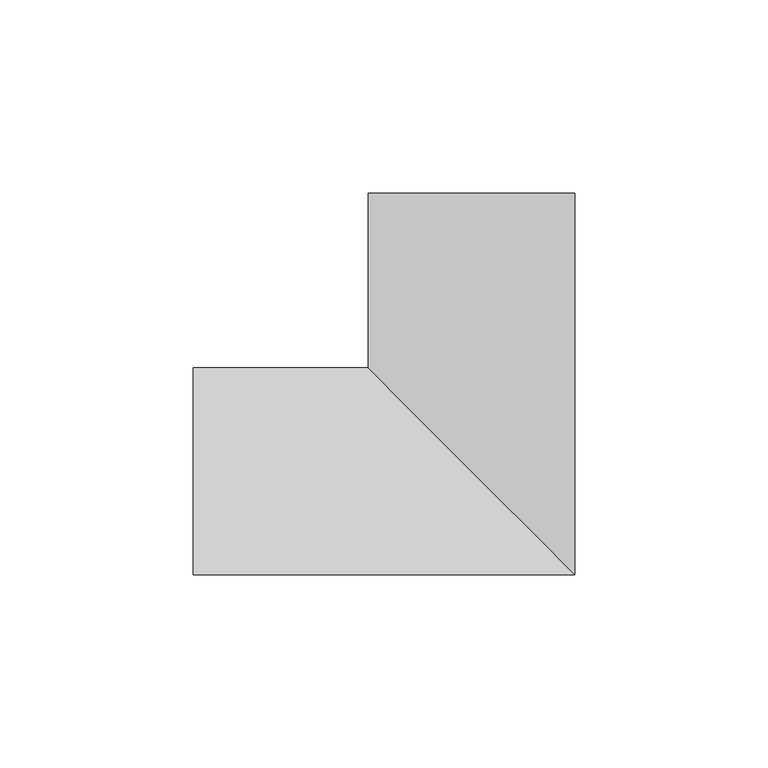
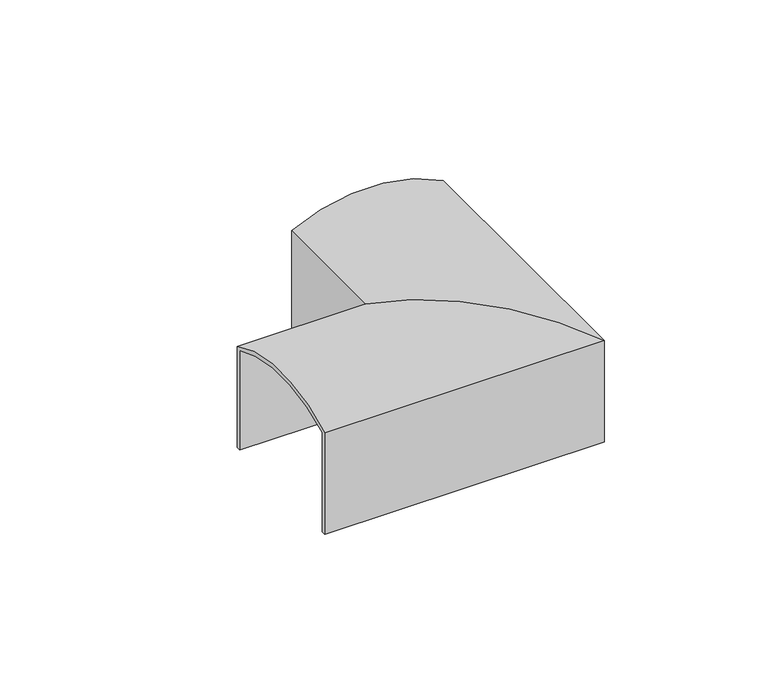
"""IFC4 building model written with IfcOpenShell, lengths in millimetres: proxy geometry, Innore top rail 51x43 corner element : Innore top rail 51x43 element."""

import ifcopenshell
import ifcopenshell.guid

model = None  # the IFC model being written
_history = None  # IfcOwnerHistory: only IFC2X3 demands one
_inside = {}  # id of a spatial element -> (the spatial element, [elements in it])
_under = {}  # id of a project, library or spatial element -> (it, [spatial elements below it])
_declared = {}  # id of a project -> (the project, [libraries it declares])
_typed = {}  # id of a type object -> (the type object, [elements of that type])
_made_of = {}  # id of a material, layer set ... -> (it, [elements and type objects made of it])


def new_model(schema):
    """Start an empty IFC model of exactly this schema.

    Asked for "IFC4X3", IfcOpenShell would pick the latest addendum, in which some entities
    have other attributes; the version numbers below select the first issue.
    IFC2X3 requires an IfcOwnerHistory on every rooted entity: one is made here for all.
    """
    global model, _history
    if schema == "IFC4X3":
        model = ifcopenshell.file(schema_version=(4, 3, 0, 0))
    else:
        model = ifcopenshell.file(schema=schema)
    _inside.clear()
    _under.clear()
    _declared.clear()
    _typed.clear()
    _made_of.clear()
    _history = None
    if model.schema == "IFC2X3":
        org = make("IfcOrganization", Name="unknown")
        user = make(
            "IfcPersonAndOrganization",
            ThePerson=make("IfcPerson", FamilyName="unknown"),
            TheOrganization=org,
        )
        app = make(
            "IfcApplication",
            ApplicationDeveloper=org,
            Version="unknown",
            ApplicationFullName="unknown",
            ApplicationIdentifier="unknown",
        )
        _history = make(
            "IfcOwnerHistory",
            OwningUser=user,
            OwningApplication=app,
            ChangeAction="ADDED",
            CreationDate=0,
        )
    return model


def make(cls, **values):
    """One entity of the class cls with the attributes given. An attribute that is None is left unset."""
    return model.create_entity(
        cls, **{name: value for name, value in values.items() if value is not None}
    )


def rooted(cls, **values):
    """An entity with a GlobalId (a new one), such as an element, a storey or a relation."""
    return make(cls, GlobalId=ifcopenshell.guid.new(), OwnerHistory=_history, **values)


def si_unit(unit_type, name, prefix=None):
    """IfcSIUnit, for example si_unit("LENGTHUNIT", "METRE", prefix="MILLI")."""
    return make("IfcSIUnit", UnitType=unit_type, Prefix=prefix, Name=name)


def assignment(units):
    """IfcUnitAssignment: the units of a project."""
    return None if units is None else make("IfcUnitAssignment", Units=units)


def point(xyz):
    """IfcCartesianPoint."""
    return None if xyz is None else make("IfcCartesianPoint", Coordinates=xyz)


def direction(xyz):
    """IfcDirection."""
    return None if xyz is None else make("IfcDirection", DirectionRatios=xyz)


def frame(location, z_axis=None, x_axis=None):
    """IfcAxis2Placement3D, a coordinate frame: its origin and axes. An axis left out is left unset."""
    return make(
        "IfcAxis2Placement3D",
        Location=point(location),
        Axis=direction(z_axis),
        RefDirection=direction(x_axis),
    )


def origin():
    """The frame at (0, 0, 0) with its axes left unset."""
    return frame((0.0, 0.0, 0.0))


def place(relative_to, where):
    """IfcLocalPlacement: puts the frame where relative to a parent placement (None: the world)."""
    return make(
        "IfcLocalPlacement", PlacementRelTo=relative_to, RelativePlacement=where
    )


def context(
    kind, dimensions, precision=None, world=None, true_north=None, identifier=None
):
    """IfcGeometricRepresentationContext, for example the 3D "Model" context."""
    return make(
        "IfcGeometricRepresentationContext",
        ContextIdentifier=identifier,
        ContextType=kind,
        CoordinateSpaceDimension=dimensions,
        Precision=precision,
        WorldCoordinateSystem=world,
        TrueNorth=true_north,
    )


def project(units=None, contexts=None):
    """IfcProject with its units and contexts."""
    return rooted(
        "IfcProject",
        Name="project",
        RepresentationContexts=contexts,
        UnitsInContext=assignment(units),
    )


def spatial(cls, under=None, at=None, **own):
    """A site, building, storey or space (cls), placed at a placement, below another one or the project."""
    s = rooted(cls, ObjectPlacement=at, **own)
    if under is not None:
        _under.setdefault(under.id(), (under, []))[1].append(s)
    return s


def polyline(points):
    """IfcPolyline through the points."""
    return make("IfcPolyline", Points=[point(p) for p in points])


def circle_curve(where, radius):
    """IfcCircle in the frame where."""
    return make("IfcCircle", Position=where, Radius=radius)


def ellipse_curve(where, semi_axis1, semi_axis2):
    """IfcEllipse in the frame where."""
    return make(
        "IfcEllipse", Position=where, SemiAxis1=semi_axis1, SemiAxis2=semi_axis2
    )


def shape(context_of_items, identifier, shape_type, items):
    """IfcShapeRepresentation: the items that make up one representation, for example the "Body"."""
    return make(
        "IfcShapeRepresentation",
        ContextOfItems=context_of_items,
        RepresentationIdentifier=identifier,
        RepresentationType=shape_type,
        Items=items,
    )


def source(mapping_origin, context_of_items, identifier, shape_type, items):
    """IfcRepresentationMap: a shape defined once, which mapped items show again and again."""
    return make(
        "IfcRepresentationMap",
        MappingOrigin=mapping_origin,
        MappedRepresentation=shape(context_of_items, identifier, shape_type, items),
    )


def transform(
    local_origin,
    x_axis=None,
    y_axis=None,
    z_axis=None,
    scale=None,
    scale2=None,
    scale3=None,
    uniform=True,
):
    """IfcCartesianTransformationOperator3D, or its non-uniform kind. x_axis, y_axis, z_axis: its Axis1, 2, 3."""
    if uniform:
        return make(
            "IfcCartesianTransformationOperator3D",
            Axis1=direction(x_axis),
            Axis2=direction(y_axis),
            LocalOrigin=point(local_origin),
            Scale=scale,
            Axis3=direction(z_axis),
        )
    return make(
        "IfcCartesianTransformationOperator3DnonUniform",
        Axis1=direction(x_axis),
        Axis2=direction(y_axis),
        LocalOrigin=point(local_origin),
        Scale=scale,
        Axis3=direction(z_axis),
        Scale2=scale2,
        Scale3=scale3,
    )


def mapped(mapping_source, mapping_target):
    """IfcMappedItem: shows the shape of a source again, moved by a transform."""
    return make(
        "IfcMappedItem", MappingSource=mapping_source, MappingTarget=mapping_target
    )


def made_of(thing, what):
    """Note that an element or type object is made of a material, layer set ...; save() writes the relation."""
    if what is not None:
        _made_of.setdefault(what.id(), (what, []))[1].append(thing)
    return thing


def element(
    cls,
    number,
    at=None,
    inside=None,
    cuts=None,
    type_object=None,
    material=None,
    context=None,
    identifier="Body",
    shape_type=None,
    held_by="IfcProductDefinitionShape",
    body=None,
    shapes=None,
    **own,
):
    """One element of the class cls, such as IfcWall. Its Tag is "e" and its number.

    at: its placement. inside: the storey or other place that contains it. cuts: it is an
    opening in that element (IfcRelVoidsElement). A single representation is given by context,
    identifier, shape_type and body (its items); several are given by shapes. held_by: the class
    of the entity that holds the representations. save() writes the other relations.
    """
    e = rooted(cls, Tag="e%d" % number, ObjectPlacement=at, **own)
    if body is not None:
        shapes = [shape(context, identifier, shape_type, body)]
    if shapes is not None:
        e.Representation = make(held_by, Representations=shapes)
    if inside is not None:
        _inside.setdefault(inside.id(), (inside, []))[1].append(e)
    if cuts is not None:
        rooted(
            "IfcRelVoidsElement", RelatingBuildingElement=cuts, RelatedOpeningElement=e
        )
    if type_object is not None:
        _typed.setdefault(type_object.id(), (type_object, []))[1].append(e)
    return made_of(e, material)


def aggregate(whole, parts):
    """IfcRelAggregates: a whole, such as a stair, and the parts it consists of."""
    return rooted("IfcRelAggregates", RelatingObject=whole, RelatedObjects=parts)


def save(model, path):
    """Write the relations noted so far, then the file.

    IfcRelAggregates (storeys below a building ...), IfcRelContainedInSpatialStructure (elements
    in a storey), IfcRelDefinesByType, IfcRelAssociatesMaterial and IfcRelDeclares: one each for
    every whole, place, type object, material and project.
    """
    for whole, parts in _under.values():
        aggregate(whole, parts)
    for where, things in _inside.values():
        rooted(
            "IfcRelContainedInSpatialStructure",
            RelatedElements=things,
            RelatingStructure=where,
        )
    for kind, things in _typed.values():
        rooted("IfcRelDefinesByType", RelatedObjects=things, RelatingType=kind)
    for what, things in _made_of.values():
        rooted("IfcRelAssociatesMaterial", RelatedObjects=things, RelatingMaterial=what)
    for by, libraries in _declared.values():
        rooted("IfcRelDeclares", RelatingContext=by, RelatedDefinitions=libraries)
    model.write(path)


def plane_surface(at):
    """IfcPlane: the flat surface through the origin of the frame at, square to its z axis."""
    return make("IfcPlane", Position=at)


def cylinder_surface(at, radius):
    """IfcCylindricalSurface: all points at the distance radius from the z axis of the frame at."""
    return make("IfcCylindricalSurface", Position=at, Radius=radius)


def revolved_surface(curve, axis_point, axis_direction):
    """IfcSurfaceOfRevolution: the curve turned about the line through axis_point along axis_direction."""
    return make(
        "IfcSurfaceOfRevolution",
        SweptCurve=make("IfcArbitraryOpenProfileDef", ProfileType="CURVE", Curve=curve),
        AxisPosition=make("IfcAxis1Placement", Location=point(axis_point), Axis=direction(axis_direction)),
    )


def advanced_brep(points, edges, surfaces, faces):
    """IfcAdvancedBrep: a solid bounded by faces that lie on surfaces and meet in shared edges.

    An edge is (start, end): straight between two places in points (the first is 0);
    or (start, end, curve); or (start, end, curve, False) where it runs against its curve.
    A face is (place in surfaces, loops), or (place, loops, False) where it looks against
    its surface's normal. A loop lists edges by number (the first is 1), with a minus sign
    where the edge is run from its end to its start. The first loop is the outer one.
    """
    corners = [point(p) for p in points]
    vertices = [make("IfcVertexPoint", VertexGeometry=c) for c in corners]
    made = []
    for start, end, *more in edges:
        made.append(
            make(
                "IfcEdgeCurve",
                EdgeStart=vertices[start],
                EdgeEnd=vertices[end],
                EdgeGeometry=more[0] if more else make("IfcPolyline", Points=[corners[start], corners[end]]),
                SameSense=more[1] if len(more) > 1 else True,
            )
        )
    hull = []
    for where, loops, *sense in faces:
        bounds = []
        for j, loop in enumerate(loops):
            ring = [make("IfcOrientedEdge", EdgeElement=made[abs(k) - 1], Orientation=k > 0) for k in loop]
            bounds.append(
                make(
                    "IfcFaceOuterBound" if j == 0 else "IfcFaceBound",
                    Bound=make("IfcEdgeLoop", EdgeList=ring),
                    Orientation=True,
                )
            )
        hull.append(make("IfcAdvancedFace", Bounds=bounds, FaceSurface=surfaces[where], SameSense=sense[0] if sense else True))
    return make("IfcAdvancedBrep", Outer=make("IfcClosedShell", CfsFaces=hull))


def generic_models_029e0633(model_context):
    return source(origin(), model_context, "Body", "AdvancedBrep", [
        advanced_brep(
        [(-26.7441608, 71.9513646, -5.1313999), (26.7547089, 71.9513646, -5.1421029), (26.7547089, 71.9513646, -42.9991934), (25.2598291, 71.9513646, -42.9991934), (25.2598291, 71.9513646, -5.8678927), (-25.2598291, 71.9513646, -5.8631127), (-25.2598291, 71.9513646, -42.9991934), (-26.7441608, 71.9513646, -42.9991934), (26.7547089, -26.754154, -5.1421029), (26.7547089, -26.754154, -42.9991934), (25.2598291, -25.2592742, -42.9991934), (25.2598291, -25.2592742, -5.8678927), (-25.2598291, 25.2603841, -5.8631127), (-25.2598291, 25.2603841, -42.9991934), (-26.7441608, 26.7447157, -42.9991934), (-26.7441608, 26.7447157, -5.1313999), (-71.964886, 26.7447157, -5.1313999), (-71.964886, 26.7447157, -42.9991934), (-71.964886, 25.2603841, -42.9991934), (-71.964886, 25.2603841, -5.8631127), (-71.964886, -25.2592742, -5.8678927), (-71.964886, -25.2592742, -42.9991934), (-71.964886, -26.754154, -42.9991934), (-71.964886, -26.754154, -5.1421029)],
        [
            (0, 1, circle_curve(frame((-0.0048689, 71.9513646, -55.8364469), z_axis=(0.0, 1.0, 0.0), x_axis=(1.0, 0.0, 0.0)), 57.3235687)),
            (1, 2),
            (2, 3),
            (3, 4),
            (4, 5, circle_curve(frame((-0.0048689, 71.9513646, -57.3235684), z_axis=(0.0, -1.0, 0.0), x_axis=(1.0, 0.0, 0.0)), 57.3235687)),
            (5, 6),
            (6, 7),
            (7, 0),
            (1, 8),
            (8, 9),
            (9, 2),
            (3, 10),
            (10, 11),
            (11, 4),
            (11, 12, ellipse_curve(frame((-0.0048689, 0.0054238, -57.3235684), z_axis=(-0.7071067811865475, -0.7071067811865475, 0.0), x_axis=(0.7071067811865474, -0.7071067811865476, 0.0)), 81.0677682, 57.3235687)),
            (12, 5),
            (12, 13),
            (13, 6),
            (7, 14),
            (14, 15),
            (15, 0),
            (16, 17),
            (17, 18),
            (18, 19),
            (19, 20, circle_curve(frame((-71.964886, 0.0054238, -57.3235684), z_axis=(1.0, 0.0, 0.0), x_axis=(0.0, -1.0, 0.0)), 57.3235687)),
            (20, 21),
            (21, 22),
            (22, 23),
            (23, 16, circle_curve(frame((-71.964886, 0.0054238, -55.8364469), z_axis=(-1.0, 0.0, 0.0), x_axis=(0.0, -1.0, 0.0)), 57.3235687)),
            (8, 23),
            (22, 9),
            (10, 21),
            (20, 11),
            (19, 12),
            (18, 13),
            (14, 17),
            (16, 15),
            (15, 8, ellipse_curve(frame((-0.0048689, 0.0054238, -55.8364469), z_axis=(0.7071067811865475, 0.7071067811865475, 0.0), x_axis=(-0.7071067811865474, 0.7071067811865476, 0.0)), 81.0677682, 57.3235687)),
        ],
        [
            plane_surface(frame((0.0, 71.9513646, 0.0), z_axis=(0.0, 1.0, 0.0), x_axis=(0.0, 0.0, 1.0))),
            plane_surface(frame((26.7547089, 71.9513646, -5.1421029), z_axis=(1.0, 0.0, 0.0), x_axis=(0.0, -1.0, 0.0))),
            plane_surface(frame((25.2598291, 71.9513646, -42.9991934), z_axis=(-1.0, 0.0, 0.0), x_axis=(0.0, -1.0, 0.0))),
            revolved_surface(polyline([(57.318699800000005, -57.318144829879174, -57.3235684), (57.318699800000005, 71.9513646, -57.3235684)]), (-0.0048689, 71.9513646, -57.3235684), (0.0, -1.0, 0.0)),
            plane_surface(frame((-25.2598291, 71.9513646, -5.8631127), z_axis=(1.0, 0.0, 0.0), x_axis=(0.0, -1.0, 0.0))),
            plane_surface(frame((-26.7441608, 71.9513646, -42.9991934), z_axis=(-1.0, 0.0, 0.0), x_axis=(0.0, -1.0, 0.0))),
            plane_surface(frame((-71.964886, 0.000555, 0.0), z_axis=(-1.0, 0.0, 0.0), x_axis=(0.0, 0.0, 1.0))),
            plane_surface(frame((26.7547089, -26.754154, -5.1421029), z_axis=(0.0, -1.0, 0.0), x_axis=(-1.0, 0.0, 0.0))),
            plane_surface(frame((25.2598291, -25.2592742, -42.9991934), z_axis=(0.0, 1.0, 0.0), x_axis=(-1.0, 0.0, 0.0))),
            revolved_surface(polyline([(-71.964886, -57.3181449, -57.3235684), (57.31869972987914, -57.3181449, -57.3235684)]), (0.0, 0.0054238, -57.3235684), (-1.0, 0.0, 0.0)),
            plane_surface(frame((-25.2598291, 25.2603841, -5.8631127), z_axis=(0.0, -1.0, 0.0), x_axis=(-1.0, 0.0, 0.0))),
            plane_surface(frame((-26.7441608, 26.7447157, -42.9991934), z_axis=(0.0, 1.0, 0.0), x_axis=(-1.0, 0.0, 0.0))),
            cylinder_surface(frame((-0.0048689, 71.9513646, -55.8364469), z_axis=(0.0, 1.0, 0.0), x_axis=(1.0, 0.0, 0.0)), 57.3235687),
            plane_surface(frame((26.7547089, 71.9513646, -42.9991934), z_axis=(0.0, 0.0, -1.0), x_axis=(0.0, -1.0, 0.0))),
            plane_surface(frame((-25.2598291, 71.9513646, -42.9991934), z_axis=(0.0, 0.0, -1.0), x_axis=(0.0, -1.0, 0.0))),
            cylinder_surface(frame((0.0, 0.0054238, -55.8364469), z_axis=(1.0, 0.0, 0.0), x_axis=(0.0, -1.0, 0.0)), 57.3235687),
        ],
        [
            (0, [[1, 2, 3, 4, 5, 6, 7, 8]]),
            (1, [[-2, 9, 10, 11]]),
            (2, [[-4, 12, 13, 14]]),
            (3, [[-5, -14, 15, 16]]),
            (4, [[-6, -16, 17, 18]]),
            (5, [[-8, 19, 20, 21]]),
            (6, [[22, 23, 24, 25, 26, 27, 28, 29]]),
            (7, [[-10, 30, -28, 31]]),
            (8, [[-13, 32, -26, 33]]),
            (9, [[-15, -33, -25, 34]]),
            (10, [[-17, -34, -24, 35]]),
            (11, [[-20, 36, -22, 37]]),
            (12, [[-1, -21, 38, -9]]),
            (13, [[-3, -11, -31, -27, -32, -12]]),
            (14, [[-7, -18, -35, -23, -36, -19]]),
            (15, [[-38, -37, -29, -30]]),
        ],
    ),
    ])


if __name__ == "__main__":
    model = new_model("IFC4")
    model_context = context("Model", 3, world=origin())
    ifc_project = project(units=[si_unit("LENGTHUNIT", "METRE", prefix="MILLI")], contexts=[model_context])
    site = spatial("IfcSite", under=ifc_project)
    building = spatial("IfcBuilding", under=site)
    placement = place(None, origin())
    generic_models_shape = generic_models_029e0633(model_context)
    element("IfcBuildingElementProxy", 1, Name="Innore top rail 51x43 corner element : Innore top rail 51x43 element", ObjectType="Innore top rail 51x43 corner element : Innore top rail 51x43 element", at=placement, inside=building, context=model_context, shape_type="MappedRepresentation", body=[
        mapped(generic_models_shape, transform((0.0, 0.0, 0.0), x_axis=(1.0, 0.0, 0.0), y_axis=(0.0, 1.0, 0.0), z_axis=(0.0, 0.0, 1.0))),
    ])
    save(model, "model.ifc")
